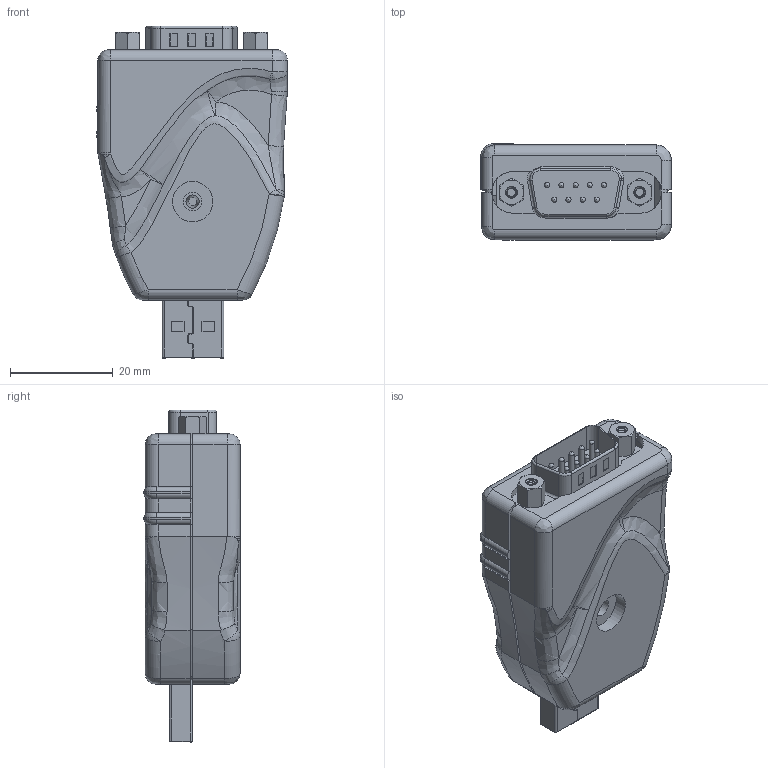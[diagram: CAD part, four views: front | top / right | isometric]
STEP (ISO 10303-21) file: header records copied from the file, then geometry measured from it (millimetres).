
FILE_DESCRIPTION(/* description */ (''),/* implementation_level */ '2;1');
FILE_NAME(/* name */ '/Users/leo/Desktop/Coolgear May/USBG-232mini/USBG-232mini Model3D LPV1.step',/* time_stamp */ '2021-09-01T17:07:08-04:00',/* author */ (''),/* organization */ (''),/* preprocessor_version */ 'ST-DEVELOPER v18.1',/* originating_system */ 'Autodesk Translation Framework v10.10.0.1391',/* authorisation */ '');
FILE_SCHEMA (('AUTOMOTIVE_DESIGN { 1 0 10303 214 3 1 1 }'));
Products named in the file (1): FusionComponent
Bounding box: 37.25 x 18.75 x 64.77 mm (x, y, z)
Volume: 11657.5 mm3; surface area: 16592.1 mm2
Topology: 2 solids, 12 shells, 1461 faces, 3653 edges, 2152 vertices
Faces by surface type: plane 580, cylinder 509, bspline 209, torus 60, cone 53, sphere 50
Full cylindrical faces by diameter (mm): 0.9 x9, 1 x29, 1.5 x9, 1.59 x2, 1.595 x18, 2.184 x18, 3 x2, 3.6 x1, 4.4 x2, 5.6 x1, 7.9 x1, 8.566 x1, 10.88 x1
Entity records: 69183 total; most frequent: CARTESIAN_POINT 36232, ORIENTED_EDGE 7112, DIRECTION 6443, EDGE_CURVE 3556, AXIS2_PLACEMENT_3D 2290, VERTEX_POINT 2160, LINE 1863, VECTOR 1863
